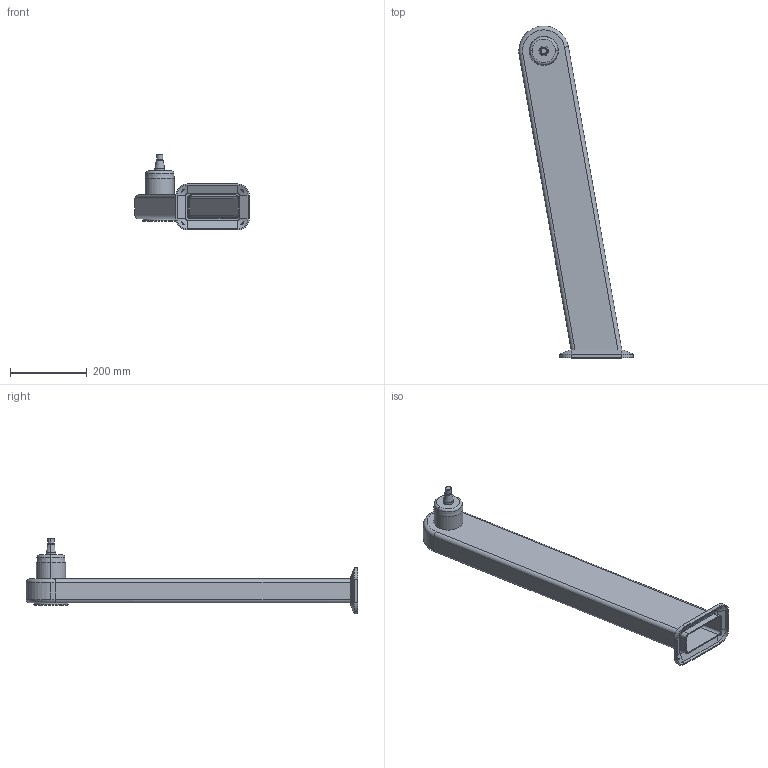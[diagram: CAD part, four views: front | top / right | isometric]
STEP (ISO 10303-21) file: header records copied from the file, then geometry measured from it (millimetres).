
FILE_DESCRIPTION (( 'STEP AP214' ), '1' );
FILE_NAME ('WP710_H800_-10.STEP', '2014-06-27T07:56:45', ( '' ), ( '' ), 'SwSTEP 2.0', 'SolidWorks 2014', '' );
FILE_SCHEMA (( 'AUTOMOTIVE_DESIGN' ));
Length unit declared in the file: millimetre
Products named in the file (1): WP710_H800_-10
Bounding box: 298.04 x 865 x 198 mm (x, y, z)
Volume: 1357096.3 mm3; surface area: 689892.5 mm2
Topology: 1 solids, 1 shells, 112 faces, 250 edges, 152 vertices
Faces by surface type: cylinder 44, plane 40, cone 20, torus 8
Entity records: 3211 total; most frequent: CARTESIAN_POINT 668, DIRECTION 552, ORIENTED_EDGE 500, EDGE_CURVE 250, AXIS2_PLACEMENT_3D 211, VERTEX_POINT 152, VECTOR 130, LINE 130
